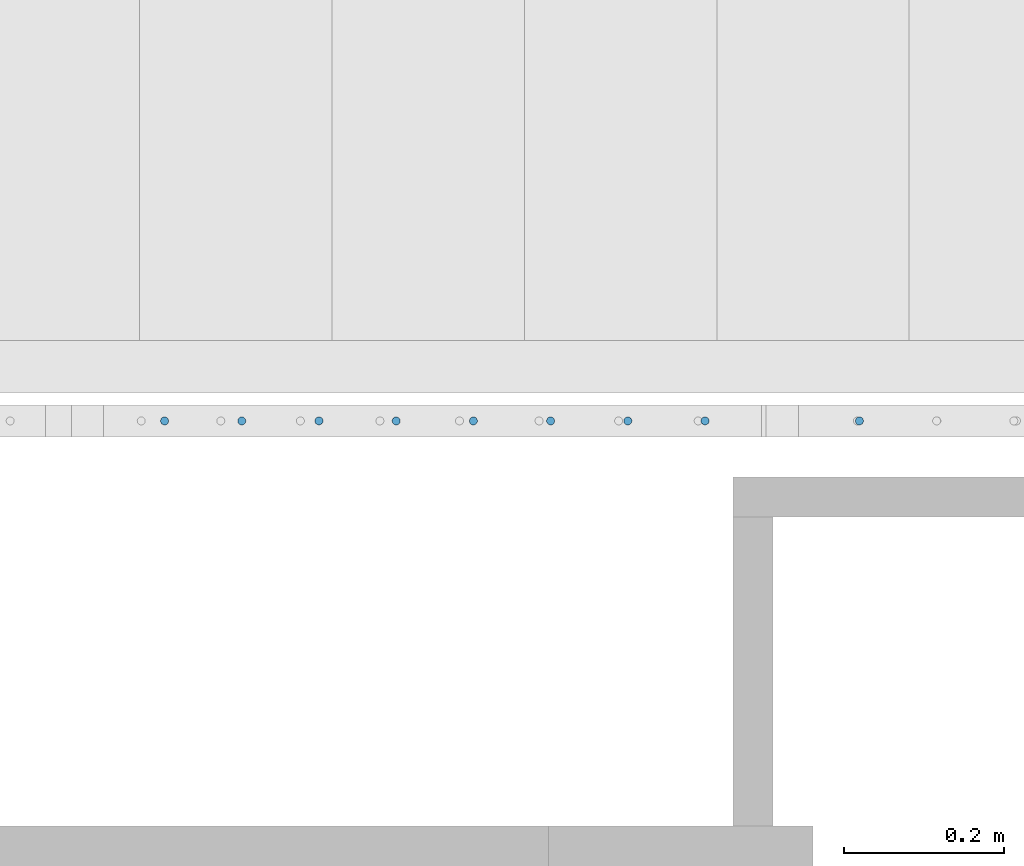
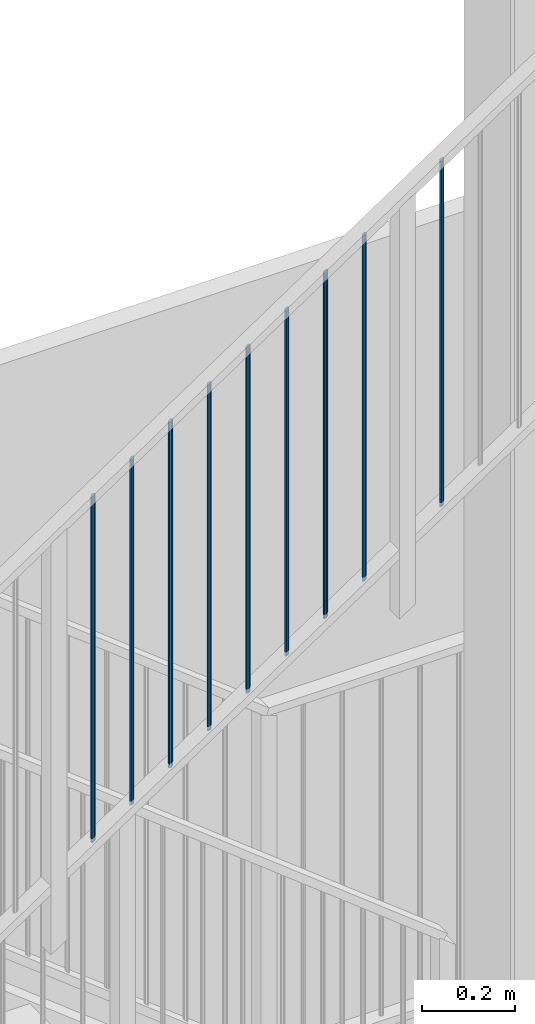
# One storey, part 16 of 135: 9 members, 1 element without a shape of its own.
"""IFC2X3 building model written with IfcOpenShell, lengths in millimetres."""

from ifc_helpers import new_model, entity, si_unit, converted_unit, derived_unit, money_unit, direction, frame, origin_with_axes, place, context, subcontext, project, spatial, faceted_brep, source, transform, mapped, material, type_object, type_shapes, element, aggregate, save


model = new_model("IFC2X3")

# Units and contexts
model_context = context("Model", 3, precision=0.01, world=origin_with_axes(), true_north=direction((0.0, 1.0)))
body_context = subcontext(model_context, "Body", "Model", "MODEL_VIEW")
ifc_project = project(units=[si_unit("LENGTHUNIT", "METRE", prefix="MILLI"), si_unit("AREAUNIT", "SQUARE_METRE"), si_unit("VOLUMEUNIT", "CUBIC_METRE"), converted_unit("PLANEANGLEUNIT", "DEGREE", entity("IfcPlaneAngleMeasure", 0.0174532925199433), si_unit("PLANEANGLEUNIT", "RADIAN"), dimensions=[0, 0, 0, 0, 0, 0, 0]), money_unit("EUR"), converted_unit("TIMEUNIT", "Year", entity("IfcTimeMeasure", 31557600.0), si_unit("TIMEUNIT", "SECOND"), dimensions=[0, 0, 1, 0, 0, 0, 0]), si_unit("MASSUNIT", "GRAM", prefix="KILO"), si_unit("THERMODYNAMICTEMPERATUREUNIT", "DEGREE_CELSIUS"), si_unit("LUMINOUSINTENSITYUNIT", "LUMEN"), si_unit("ENERGYUNIT", "JOULE", prefix="MEGA"), derived_unit("THERMALCONDUCTANCEUNIT", [(si_unit("POWERUNIT", "WATT"), 1), (si_unit("LENGTHUNIT", "METRE"), -1), (si_unit("THERMODYNAMICTEMPERATUREUNIT", "KELVIN"), -1)]), derived_unit("SPECIFICHEATCAPACITYUNIT", [(si_unit("ENERGYUNIT", "JOULE"), 1), (si_unit("MASSUNIT", "GRAM", prefix="KILO"), -1), (si_unit("THERMODYNAMICTEMPERATUREUNIT", "KELVIN"), -1)]), derived_unit("MASSDENSITYUNIT", [(si_unit("MASSUNIT", "GRAM", prefix="KILO"), 1), (si_unit("VOLUMEUNIT", "CUBIC_METRE"), -1)])], contexts=[model_context])

# Site, building, storey
site_placement = place(None, origin_with_axes())
site = spatial("IfcSite", under=ifc_project, at=site_placement, Name="Site", CompositionType="ELEMENT")
building_placement = place(site_placement, origin_with_axes())
building = spatial("IfcBuilding", under=site, at=building_placement, Name="Naam gebouw", CompositionType="ELEMENT")
storey_placement = place(building_placement, origin_with_axes())
storey = spatial("IfcBuildingStorey", under=building, at=storey_placement, Name="Begane grond N", CompositionType="ELEMENT", Elevation=0.0)

# Railing, members
railing_type = type_object("IfcRailingType", Name="Railing Type", PredefinedType="NOTDEFINED")
railing_placement = place(storey_placement, frame((56236.62159597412, 21185.9124251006, 4176.0), z_axis=(0.0, 0.0, 1.0), x_axis=(1.0, 0.0, 0.0)))
railing = element("IfcRailing", 1, at=railing_placement, inside=storey, type_object=railing_type, Name="_Reling-x", PredefinedType="NOTDEFINED")
ifc_material = material(Name="Metaal - Staal C")
member_type = type_object("IfcMemberType", Name="IfcMember", PredefinedType="MEMBER")
shared_shape = source(origin_with_axes(), body_context, "Body", "Brep", [
    faceted_brep([(0.0, -5.000000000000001, -3.340321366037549), (0.8682408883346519, -4.924038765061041, -3.289574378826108), (0.8682408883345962, -4.924038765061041, 904.2104256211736), (0.0, -5.000000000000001, 904.1596786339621), (-0.8682408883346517, -4.924038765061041, -3.289574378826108), (-1.710100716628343, -4.698463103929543, -3.13887533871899), (-2.500000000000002, -4.330127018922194, -2.892803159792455), (-3.213938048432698, -3.83022221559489, -2.558834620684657), (-3.830222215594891, -3.213938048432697, -2.147117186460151), (-4.330127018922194, -2.500000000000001, -1.670160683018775), (-4.698463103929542, -1.710100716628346, -1.142457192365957), (-4.924038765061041, -0.8682408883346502, -0.5800407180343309), (-5.0, 0.0, 0.0), (-4.92403876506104, 0.8682408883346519, 0.5800407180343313), (-4.698463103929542, 1.710100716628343, 1.142457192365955), (-4.330127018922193, 2.500000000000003, 1.670160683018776), (-3.83022221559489, 3.213938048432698, 2.147117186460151), (-3.213938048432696, 3.830222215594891, 2.558834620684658), (-2.5, 4.330127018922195, 2.892803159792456), (-1.710100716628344, 4.698463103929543, 3.13887533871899), (-0.8682408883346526, 4.924038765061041, 3.289574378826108), (0.0, 5.000000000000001, 3.340321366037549), (0.8682408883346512, 4.924038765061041, 3.289574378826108), (1.710100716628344, 4.698463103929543, 3.13887533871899), (2.5, 4.330127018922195, 2.892803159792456), (3.213938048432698, 3.83022221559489, 2.558834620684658), (3.83022221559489, 3.213938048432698, 2.147117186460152), (4.330127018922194, 2.499999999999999, 1.670160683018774), (4.698463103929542, 1.710100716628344, 1.142457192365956), (4.92403876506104, 0.8682408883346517, 0.580040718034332), (5.0, 0.0, 0.0), (4.92403876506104, -0.8682408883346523, -0.5800407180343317), (4.698463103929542, -1.710100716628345, -1.142457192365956), (4.330127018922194, -2.500000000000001, -1.670160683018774), (3.83022221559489, -3.213938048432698, -2.147117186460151), (3.213938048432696, -3.830222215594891, -2.558834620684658), (2.5, -4.330127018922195, -2.892803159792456), (1.710100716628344, -4.698463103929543, -3.13887533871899), (1.710100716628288, -4.698463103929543, 904.3611246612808), (2.499999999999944, -4.330127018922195, 904.6071968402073), (3.213938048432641, -3.830222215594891, 904.9411653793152), (3.830222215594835, -3.213938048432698, 905.3528828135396), (4.330127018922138, -2.500000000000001, 905.8298393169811), (4.698463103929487, -1.710100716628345, 906.3575428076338), (4.924038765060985, -0.8682408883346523, 906.9199592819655), (4.999999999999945, 0.0, 907.4999999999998), (4.924038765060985, 0.8682408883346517, 908.0800407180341), (4.698463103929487, 1.710100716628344, 908.6424571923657), (4.330127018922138, 2.499999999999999, 909.1701606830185), (3.830222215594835, 3.213938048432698, 909.6471171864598), (3.213938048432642, 3.83022221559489, 910.0588346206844), (2.499999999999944, 4.330127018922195, 910.3928031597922), (1.710100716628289, 4.698463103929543, 910.6388753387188), (0.8682408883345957, 4.924038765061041, 910.7895743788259), (0.0, 5.000000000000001, 910.8403213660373), (-0.8682408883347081, 4.924038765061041, 910.7895743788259), (-1.710100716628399, 4.698463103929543, 910.6388753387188), (-2.500000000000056, 4.330127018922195, 910.3928031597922), (-3.213938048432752, 3.830222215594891, 910.0588346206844), (-3.830222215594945, 3.213938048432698, 909.6471171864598), (-4.330127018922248, 2.500000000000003, 909.1701606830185), (-4.698463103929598, 1.710100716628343, 908.6424571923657), (-4.924038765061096, 0.8682408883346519, 908.0800407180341), (-5.000000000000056, 0.0, 907.4999999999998), (-4.924038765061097, -0.8682408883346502, 906.9199592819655), (-4.698463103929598, -1.710100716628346, 906.3575428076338), (-4.330127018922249, -2.500000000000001, 905.8298393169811), (-3.830222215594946, -3.213938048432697, 905.3528828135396), (-3.213938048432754, -3.83022221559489, 904.9411653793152), (-2.500000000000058, -4.330127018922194, 904.6071968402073), (-1.710100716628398, -4.698463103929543, 904.3611246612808), (-0.8682408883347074, -4.924038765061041, 904.2104256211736)], [[[0, 1, 2, 3]], [[0, 4, 5, 6, 7, 8, 9, 10, 11, 12, 13, 14, 15, 16, 17, 18, 19, 20, 21, 22, 23, 24, 25, 26, 27, 28, 29, 30, 31, 32, 33, 34, 35, 36, 37, 1]], [[1, 37, 38, 2]], [[3, 2, 38, 39, 40, 41, 42, 43, 44, 45, 46, 47, 48, 49, 50, 51, 52, 53, 54, 55, 56, 57, 58, 59, 60, 61, 62, 63, 64, 65, 66, 67, 68, 69, 70, 71]], [[4, 0, 3, 71]], [[5, 4, 71, 70]], [[6, 5, 70, 69]], [[7, 6, 69, 68]], [[8, 7, 68, 67]], [[9, 8, 67, 66]], [[10, 9, 66, 65]], [[11, 10, 65, 64]], [[12, 11, 64, 63]], [[13, 12, 63, 62]], [[14, 13, 62, 61]], [[15, 14, 61, 60]], [[16, 15, 60, 59]], [[17, 16, 59, 58]], [[18, 17, 58, 57]], [[19, 18, 57, 56]], [[20, 19, 56, 55]], [[21, 20, 55, 54]], [[22, 21, 54, 53]], [[23, 22, 53, 52]], [[24, 23, 52, 51]], [[25, 24, 51, 50]], [[26, 25, 50, 49]], [[27, 26, 49, 48]], [[28, 27, 48, 47]], [[29, 28, 47, 46]], [[30, 29, 46, 45]], [[31, 30, 45, 44]], [[32, 31, 44, 43]], [[33, 32, 43, 42]], [[34, 33, 42, 41]], [[35, 34, 41, 40]], [[36, 35, 40, 39]], [[37, 36, 39, 38]]]),
])
type_shapes(member_type, [shared_shape])
member_1_placement = place(railing_placement, frame((884.7320365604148, -24.99999999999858, 713.2124485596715), z_axis=(0.0, 0.0, 1.0), x_axis=(1.0, 0.0, 0.0)))
member_1 = element("IfcMember", 2, at=member_1_placement, type_object=member_type, material=ifc_material, Name="_Spijlen-x", ObjectType="MEMBER", context=body_context, shape_type="MappedRepresentation", body=[
    mapped(shared_shape, transform((0.0, 0.0, 0.0), x_axis=(0.0, -1.0, 0.0), y_axis=(1.0, 0.0, 0.0), z_axis=(0.0, 0.0, 1.0))),
])
member_2_placement = place(railing_placement, frame((981.0120614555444, -24.99999999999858, 777.5336934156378), z_axis=(0.0, 0.0, 1.0), x_axis=(1.0, 0.0, 0.0)))
member_2 = element("IfcMember", 3, at=member_2_placement, type_object=member_type, material=ifc_material, Name="_Spijlen-x", ObjectType="MEMBER", context=body_context, shape_type="MappedRepresentation", body=[
    mapped(shared_shape, transform((0.0, 0.0, 0.0), x_axis=(0.0, -1.0, 0.0), y_axis=(1.0, 0.0, 0.0), z_axis=(0.0, 0.0, 1.0))),
])
member_3_placement = place(railing_placement, frame((1077.292086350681, -24.99999999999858, 841.8549382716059), z_axis=(0.0, 0.0, 1.0), x_axis=(1.0, 0.0, 0.0)))
member_3 = element("IfcMember", 4, at=member_3_placement, type_object=member_type, material=ifc_material, Name="_Spijlen-x", ObjectType="MEMBER", context=body_context, shape_type="MappedRepresentation", body=[
    mapped(shared_shape, transform((0.0, 0.0, 0.0), x_axis=(0.0, -1.0, 0.0), y_axis=(1.0, 0.0, 0.0), z_axis=(0.0, 0.0, 1.0))),
])
member_4_placement = place(railing_placement, frame((1173.572111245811, -24.99999999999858, 906.1761831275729), z_axis=(0.0, 0.0, 1.0), x_axis=(1.0, 0.0, 0.0)))
member_4 = element("IfcMember", 5, at=member_4_placement, type_object=member_type, material=ifc_material, Name="_Spijlen-x", ObjectType="MEMBER", context=body_context, shape_type="MappedRepresentation", body=[
    mapped(shared_shape, transform((0.0, 0.0, 0.0), x_axis=(0.0, -1.0, 0.0), y_axis=(1.0, 0.0, 0.0), z_axis=(0.0, 0.0, 1.0))),
])
member_5_placement = place(railing_placement, frame((1269.852136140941, -24.99999999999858, 970.4974279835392), z_axis=(0.0, 0.0, 1.0), x_axis=(1.0, 0.0, 0.0)))
member_5 = element("IfcMember", 6, at=member_5_placement, type_object=member_type, material=ifc_material, Name="_Spijlen-x", ObjectType="MEMBER", context=body_context, shape_type="MappedRepresentation", body=[
    mapped(shared_shape, transform((0.0, 0.0, 0.0), x_axis=(0.0, -1.0, 0.0), y_axis=(1.0, 0.0, 0.0), z_axis=(0.0, 0.0, 1.0))),
])
member_6_placement = place(railing_placement, frame((1366.13216103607, -24.99999999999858, 1034.818672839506), z_axis=(0.0, 0.0, 1.0), x_axis=(1.0, 0.0, 0.0)))
member_6 = element("IfcMember", 7, at=member_6_placement, type_object=member_type, material=ifc_material, Name="_Spijlen-x", ObjectType="MEMBER", context=body_context, shape_type="MappedRepresentation", body=[
    mapped(shared_shape, transform((0.0, 0.0, 0.0), x_axis=(0.0, -1.0, 0.0), y_axis=(1.0, 0.0, 0.0), z_axis=(0.0, 0.0, 1.0))),
])
member_7_placement = place(railing_placement, frame((1462.412185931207, -24.99999999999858, 1099.139917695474), z_axis=(0.0, 0.0, 1.0), x_axis=(1.0, 0.0, 0.0)))
member_7 = element("IfcMember", 8, at=member_7_placement, type_object=member_type, material=ifc_material, Name="_Spijlen-x", ObjectType="MEMBER", context=body_context, shape_type="MappedRepresentation", body=[
    mapped(shared_shape, transform((0.0, 0.0, 0.0), x_axis=(0.0, -1.0, 0.0), y_axis=(1.0, 0.0, 0.0), z_axis=(0.0, 0.0, 1.0))),
])
member_8_placement = place(railing_placement, frame((1558.692210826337, -24.99999999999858, 1163.461162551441), z_axis=(0.0, 0.0, 1.0), x_axis=(1.0, 0.0, 0.0)))
member_8 = element("IfcMember", 9, at=member_8_placement, type_object=member_type, material=ifc_material, Name="_Spijlen-x", ObjectType="MEMBER", context=body_context, shape_type="MappedRepresentation", body=[
    mapped(shared_shape, transform((0.0, 0.0, 0.0), x_axis=(0.0, -1.0, 0.0), y_axis=(1.0, 0.0, 0.0), z_axis=(0.0, 0.0, 1.0))),
])
member_9_placement = place(railing_placement, frame((1751.252260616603, -24.99999999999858, 1292.103652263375), z_axis=(0.0, 0.0, 1.0), x_axis=(1.0, 0.0, 0.0)))
member_9 = element("IfcMember", 10, at=member_9_placement, type_object=member_type, material=ifc_material, Name="_Spijlen-x", ObjectType="MEMBER", context=body_context, shape_type="MappedRepresentation", body=[
    mapped(shared_shape, transform((0.0, 0.0, 0.0), x_axis=(0.0, -1.0, 0.0), y_axis=(1.0, 0.0, 0.0), z_axis=(0.0, 0.0, 1.0))),
])
aggregate(railing, [member_1, member_2, member_3, member_4, member_5, member_6, member_7, member_8, member_9])

save(model, "model.ifc")
